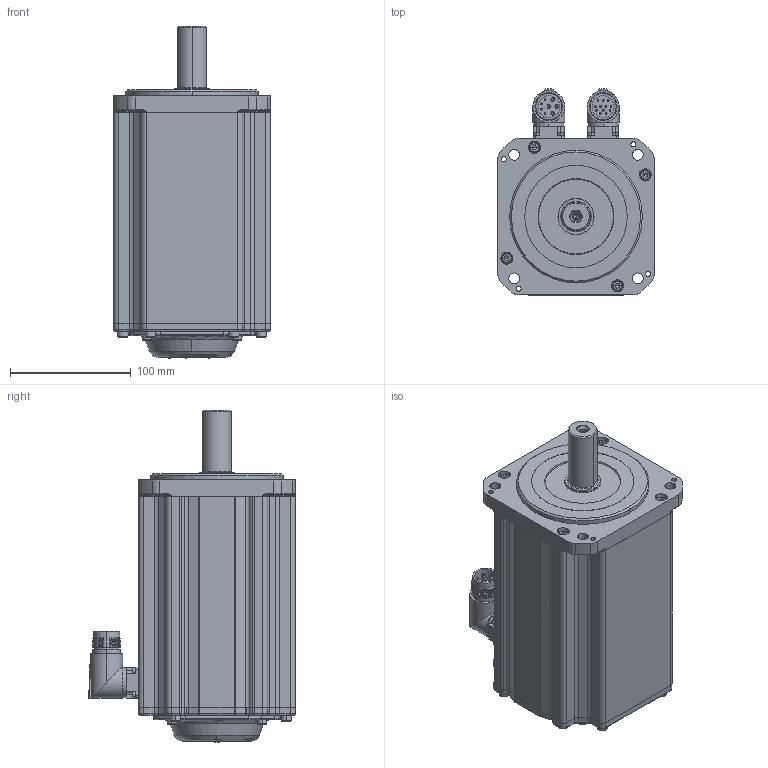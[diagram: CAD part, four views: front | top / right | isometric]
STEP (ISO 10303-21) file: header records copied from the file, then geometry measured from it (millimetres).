
FILE_DESCRIPTION (( 'STEP AP203' ), '1' );
FILE_NAME ('MC20-130-3M20-N302-0¡õPL-NNNN.STEP', '2025-07-29T15:05:12', ( '' ), ( '' ), 'SwSTEP 2.0', 'SolidWorks 2014', '' );
FILE_SCHEMA (( 'CONFIG_CONTROL_DESIGN' ));
Length unit declared in the file: millimetre
Products named in the file (1): MC20-130-3M20-N302-0¡õPL-NNNN
Bounding box: 130 x 171.35 x 275.3 mm (x, y, z)
Volume: 3174934.6 mm3; surface area: 297625.1 mm2
Topology: 28 solids, 28 shells, 2022 faces, 4794 edges, 2857 vertices
Faces by surface type: plane 733, cylinder 567, cone 358, bspline 204, torus 148, sphere 12
Entity records: 62107 total; most frequent: CARTESIAN_POINT 16808, DIRECTION 9523, ORIENTED_EDGE 9364, EDGE_CURVE 4682, AXIS2_PLACEMENT_3D 3694, VERTEX_POINT 2857, EDGE_LOOP 2269, VECTOR 2135
